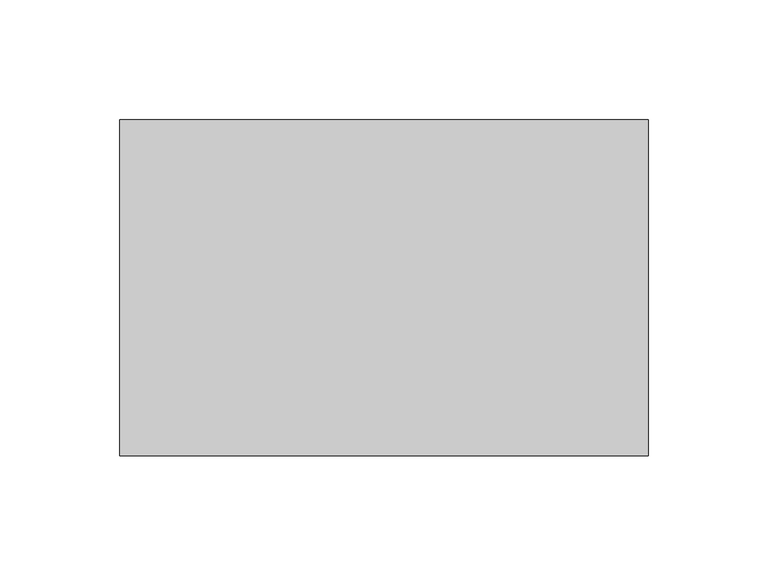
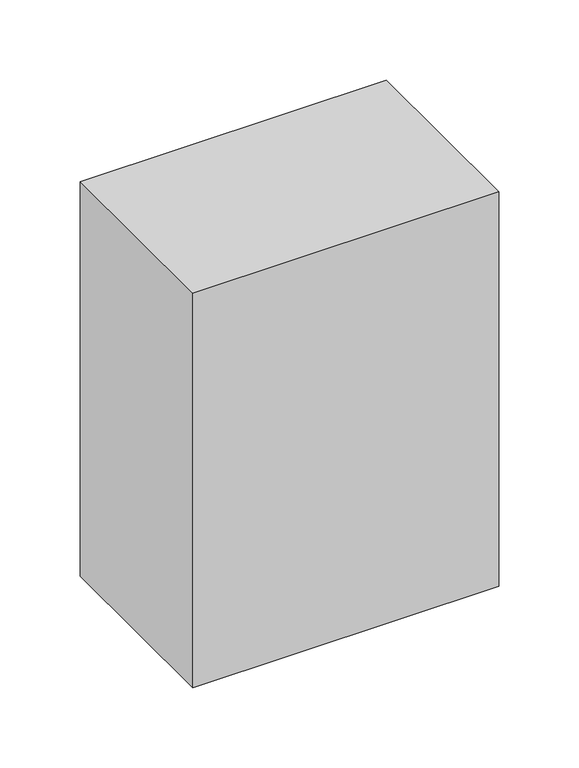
"""IFC4 building model written with IfcOpenShell, lengths in millimetres: proxy geometry."""

from ifc_helpers import new_model, si_unit, frame, origin, place, context, project, spatial, polyline, outline, extrude, source, transform, mapped, element, save


def structural_framing_35759c13(model_context):
    return source(origin(), model_context, "Body", "SweptSolid", [
        extrude(outline(polyline([(-110.05, -70.0), (-110.05, 70.0), (110.05, 70.0), (110.05, -70.0), (-110.05, -70.0)])), frame((0.0, 0.0, -300.0), z_axis=(0.0, 0.0, 1.0), x_axis=(1.0, 0.0, 0.0)), (0.0, 0.0, 1.0), 300.0),
    ])


if __name__ == "__main__":
    model = new_model("IFC4")
    model_context = context("Model", 3, world=origin())
    ifc_project = project(units=[si_unit("LENGTHUNIT", "METRE", prefix="MILLI")], contexts=[model_context])
    site = spatial("IfcSite", under=ifc_project)
    building = spatial("IfcBuilding", under=site)
    placement = place(None, origin())
    structural_framing_shape = structural_framing_35759c13(model_context)
    element("IfcBuildingElementProxy", 1, Name="Structural Framing", at=placement, inside=building, context=model_context, shape_type="MappedRepresentation", body=[
        mapped(structural_framing_shape, transform((0.0, 0.0, 0.0), x_axis=(1.0, 0.0, 0.0), y_axis=(0.0, 1.0, 0.0), z_axis=(0.0, 0.0, 1.0))),
    ])
    save(model, "model.ifc")
